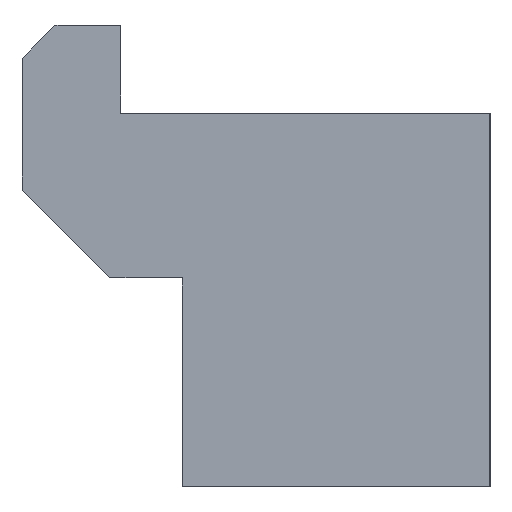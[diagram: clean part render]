
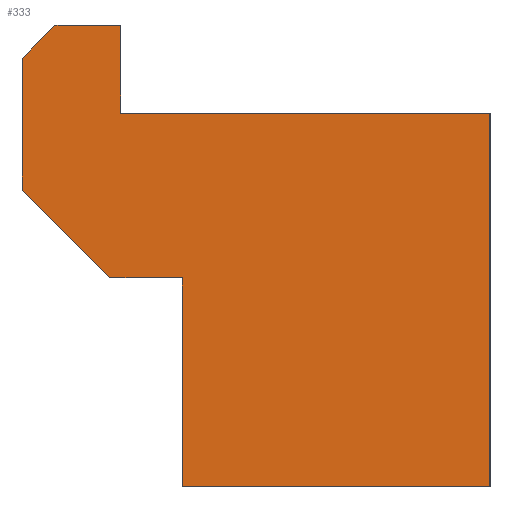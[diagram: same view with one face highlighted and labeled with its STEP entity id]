
A CAD part, left-side view. The second image highlights one B-rep face of the part: STEP entity #333.
In plain terms, the highlighted planar face has unit normal (-1, 0, 0).
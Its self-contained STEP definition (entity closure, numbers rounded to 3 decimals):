
#2=DIRECTION('',(0.,-1.,0.));
#3=VECTOR('',#2,16.8);
#4=CARTESIAN_POINT('',(-37.5,9.8,0.));
#5=LINE('',#4,#3);
#6=DIRECTION('',(0.,0.,-1.));
#7=VECTOR('',#6,17.);
#8=CARTESIAN_POINT('',(-37.5,-7.,0.));
#9=LINE('',#8,#7);
#10=DIRECTION('',(0.,1.,0.));
#11=VECTOR('',#10,14.);
#12=CARTESIAN_POINT('',(-37.5,-7.,-17.));
#13=LINE('',#12,#11);
#14=DIRECTION('',(0.,0.,1.));
#15=VECTOR('',#14,9.5);
#16=CARTESIAN_POINT('',(-37.5,7.,-17.));
#17=LINE('',#16,#15);
#18=DIRECTION('',(0.,1.,0.));
#19=VECTOR('',#18,3.3);
#20=CARTESIAN_POINT('',(-37.5,7.,-7.5));
#21=LINE('',#20,#19);
#22=DIRECTION('',(0.,0.707,0.707));
#23=VECTOR('',#22,5.657);
#24=CARTESIAN_POINT('',(-37.5,10.3,-7.5));
#25=LINE('',#24,#23);
#26=DIRECTION('',(0.,0.,1.));
#27=VECTOR('',#26,6.);
#28=CARTESIAN_POINT('',(-37.5,14.3,-3.5));
#29=LINE('',#28,#27);
#30=DIRECTION('',(0.,-0.707,0.707));
#31=VECTOR('',#30,2.121);
#32=CARTESIAN_POINT('',(-37.5,14.3,2.5));
#33=LINE('',#32,#31);
#34=DIRECTION('',(0.,-1.,0.));
#35=VECTOR('',#34,3.);
#36=CARTESIAN_POINT('',(-37.5,12.8,4.));
#37=LINE('',#36,#35);
#38=DIRECTION('',(0.,0.,-1.));
#39=VECTOR('',#38,4.);
#40=CARTESIAN_POINT('',(-37.5,9.8,4.));
#41=LINE('',#40,#39);
#234=CARTESIAN_POINT('',(-37.5,9.8,0.));
#235=CARTESIAN_POINT('',(-37.5,-7.,0.));
#236=VERTEX_POINT('',#234);
#237=VERTEX_POINT('',#235);
#238=CARTESIAN_POINT('',(-37.5,-7.,-17.));
#239=VERTEX_POINT('',#238);
#240=CARTESIAN_POINT('',(-37.5,7.,-17.));
#241=VERTEX_POINT('',#240);
#242=CARTESIAN_POINT('',(-37.5,7.,-7.5));
#243=VERTEX_POINT('',#242);
#244=CARTESIAN_POINT('',(-37.5,10.3,-7.5));
#245=VERTEX_POINT('',#244);
#246=CARTESIAN_POINT('',(-37.5,14.3,-3.5));
#247=VERTEX_POINT('',#246);
#248=CARTESIAN_POINT('',(-37.5,14.3,2.5));
#249=VERTEX_POINT('',#248);
#250=CARTESIAN_POINT('',(-37.5,12.8,4.));
#251=VERTEX_POINT('',#250);
#252=CARTESIAN_POINT('',(-37.5,9.8,4.));
#253=VERTEX_POINT('',#252);
#306=CARTESIAN_POINT('',(-37.5,0.,0.));
#307=DIRECTION('',(1.,0.,0.));
#308=DIRECTION('',(0.,0.,-1.));
#309=AXIS2_PLACEMENT_3D('',#306,#307,#308);
#310=PLANE('',#309);
#312=ORIENTED_EDGE('',*,*,#311,.T.);
#314=ORIENTED_EDGE('',*,*,#313,.T.);
#316=ORIENTED_EDGE('',*,*,#315,.T.);
#318=ORIENTED_EDGE('',*,*,#317,.T.);
#320=ORIENTED_EDGE('',*,*,#319,.T.);
#322=ORIENTED_EDGE('',*,*,#321,.T.);
#324=ORIENTED_EDGE('',*,*,#323,.T.);
#326=ORIENTED_EDGE('',*,*,#325,.T.);
#328=ORIENTED_EDGE('',*,*,#327,.T.);
#330=ORIENTED_EDGE('',*,*,#329,.T.);
#331=EDGE_LOOP('',(#312,#314,#316,#318,#320,#322,#324,#326,#328,#330));
#332=FACE_OUTER_BOUND('',#331,.F.);
#311=EDGE_CURVE('',#236,#237,#5,.T.);
#313=EDGE_CURVE('',#237,#239,#9,.T.);
#315=EDGE_CURVE('',#239,#241,#13,.T.);
#317=EDGE_CURVE('',#241,#243,#17,.T.);
#319=EDGE_CURVE('',#243,#245,#21,.T.);
#321=EDGE_CURVE('',#245,#247,#25,.T.);
#323=EDGE_CURVE('',#247,#249,#29,.T.);
#325=EDGE_CURVE('',#249,#251,#33,.T.);
#327=EDGE_CURVE('',#251,#253,#37,.T.);
#329=EDGE_CURVE('',#253,#236,#41,.T.);
#333=ADVANCED_FACE('',(#332),#310,.F.);
